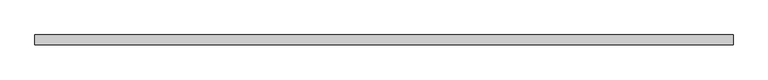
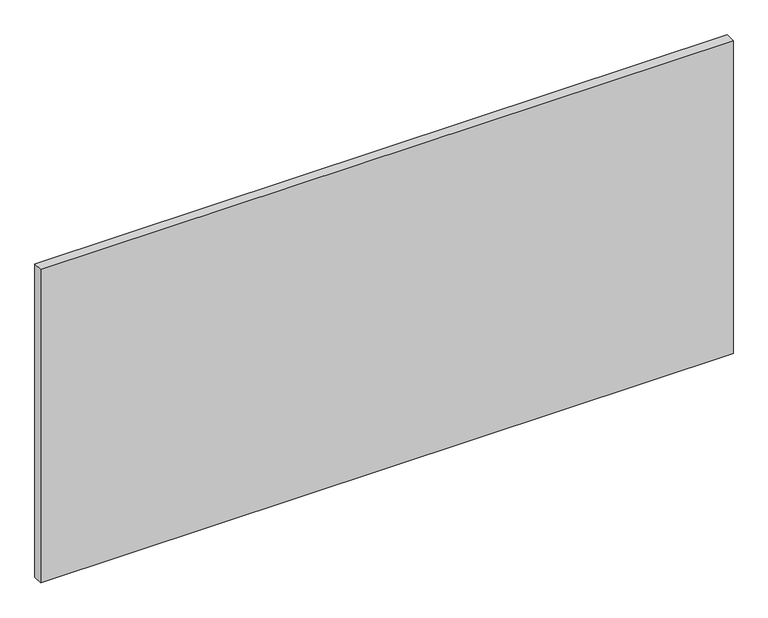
"""IFC4 building model written with IfcOpenShell, lengths in millimetres: plate geometry, 系统嵌板 : 玻璃."""

from ifc_helpers import new_model, si_unit, origin, origin_with_axes, place, context, project, spatial, polyline, outline, extrude, source, transform, mapped, element, save


def plate_f968a0e6(model_context):
    return source(origin(), model_context, "Body", "SweptSolid", [
        extrude(outline(polyline([(887.5, -12.5), (-887.5, -12.5), (-887.5, 12.5), (887.5, 12.5), (887.5, -12.5)])), origin_with_axes(), (0.0, 0.0, 1.0), 849.0),
    ])


if __name__ == "__main__":
    model = new_model("IFC4")
    model_context = context("Model", 3, world=origin())
    ifc_project = project(units=[si_unit("LENGTHUNIT", "METRE", prefix="MILLI")], contexts=[model_context])
    site = spatial("IfcSite", under=ifc_project)
    building = spatial("IfcBuilding", under=site)
    placement = place(None, origin())
    plate_shape = plate_f968a0e6(model_context)
    element("IfcPlate", 1, ObjectType="系统嵌板 : 玻璃", at=placement, inside=building, context=model_context, shape_type="MappedRepresentation", body=[
        mapped(plate_shape, transform((0.0, 0.0, 0.0), x_axis=(1.0, 0.0, 0.0), y_axis=(0.0, 1.0, 0.0), z_axis=(0.0, 0.0, 1.0))),
    ])
    save(model, "model.ifc")
